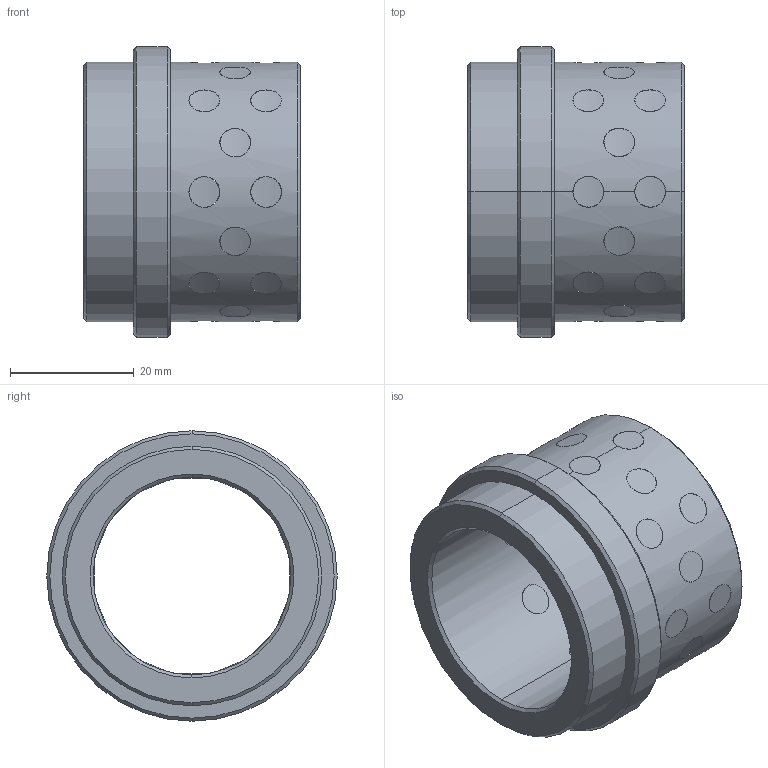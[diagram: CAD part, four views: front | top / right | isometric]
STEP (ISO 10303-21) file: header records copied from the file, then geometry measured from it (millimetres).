
FILE_DESCRIPTION((''),'2;1');
FILE_NAME('G31232027','2017-12-30T',('MANU'),(''),'PRO/ENGINEER BY PARAMETRIC TECHNOLOGY CORPORATION, 2012130','PRO/ENGINEER BY PARAMETRIC TECHNOLOGY CORPORATION, 2012130','');
FILE_SCHEMA(('CONFIG_CONTROL_DESIGN'));
Length unit declared in the file: millimetre
Products named in the file (1): G31232027
Bounding box: 35 x 47 x 47 mm (x, y, z)
Volume: 22296.9 mm3; surface area: 13618.7 mm2
Topology: 25 solids, 25 shells, 168 faces, 360 edges, 236 vertices
Faces by surface type: cylinder 152, cone 12, plane 4
Entity records: 7722 total; most frequent: CARTESIAN_POINT 4356, ORIENTED_EDGE 720, DIRECTION 516, EDGE_CURVE 360, VERTEX_POINT 236, EDGE_LOOP 212, B_SPLINE_CURVE_WITH_KNOTS 208, AXIS2_PLACEMENT_3D 196
